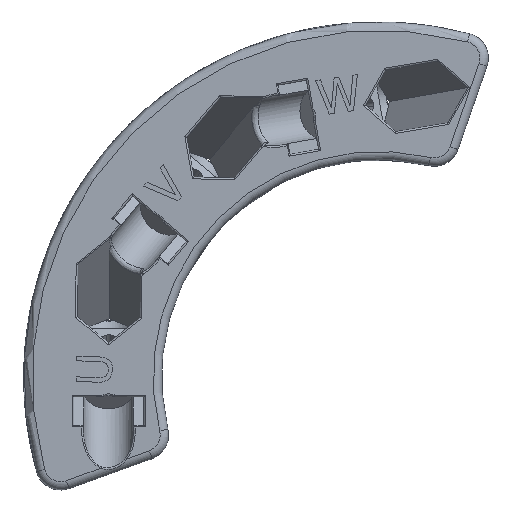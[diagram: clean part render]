
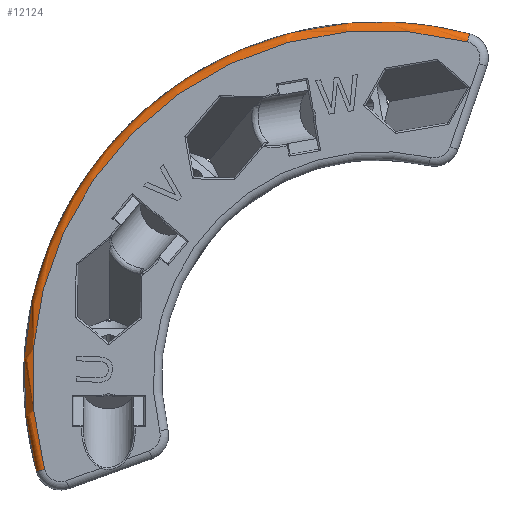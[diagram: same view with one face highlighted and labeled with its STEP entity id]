
A CAD part, front view. The second image highlights one B-rep face of the part: STEP entity #12124.
In plain terms, the highlighted toroidal (fillet/blend) face has major radius 41.5 mm and minor radius 1 mm.
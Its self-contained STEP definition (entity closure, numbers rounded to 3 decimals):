
#39=TOROIDAL_SURFACE('',#13011,41.5,1.);
#2971=FACE_OUTER_BOUND('',#3654,.T.);
#3654=EDGE_LOOP('',(#9651,#9652,#9653,#9654,#9655,#9656,#9657,#9658));
#4717=CIRCLE('',#12582,42.5);
#4719=CIRCLE('',#12584,42.5);
#4870=CIRCLE('',#12898,41.5);
#4890=CIRCLE('',#13012,1.);
#4891=CIRCLE('',#13013,1.);
#4892=CIRCLE('',#13014,1.);
#4893=CIRCLE('',#13015,1.);
#4894=CIRCLE('',#13016,42.497);
#5075=VERTEX_POINT('',#16412);
#5076=VERTEX_POINT('',#16414);
#5087=VERTEX_POINT('',#16471);
#5088=VERTEX_POINT('',#16473);
#5722=VERTEX_POINT('',#21587);
#5723=VERTEX_POINT('',#21589);
#5832=VERTEX_POINT('',#22824);
#5833=VERTEX_POINT('',#22828);
#6256=EDGE_CURVE('',#5076,#5075,#4717,.T.);
#6268=EDGE_CURVE('',#5088,#5087,#4719,.T.);
#7086=EDGE_CURVE('',#5723,#5722,#4870,.T.);
#7268=EDGE_CURVE('',#5832,#5076,#4890,.T.);
#7269=EDGE_CURVE('',#5075,#5723,#4891,.T.);
#7270=EDGE_CURVE('',#5722,#5088,#4892,.T.);
#7271=EDGE_CURVE('',#5087,#5833,#4893,.T.);
#7272=EDGE_CURVE('',#5833,#5832,#4894,.T.);
#9651=ORIENTED_EDGE('',*,*,#7268,.T.);
#9652=ORIENTED_EDGE('',*,*,#6256,.T.);
#9653=ORIENTED_EDGE('',*,*,#7269,.T.);
#9654=ORIENTED_EDGE('',*,*,#7086,.T.);
#9655=ORIENTED_EDGE('',*,*,#7270,.T.);
#9656=ORIENTED_EDGE('',*,*,#6268,.T.);
#9657=ORIENTED_EDGE('',*,*,#7271,.T.);
#9658=ORIENTED_EDGE('',*,*,#7272,.T.);
#12124=ADVANCED_FACE('',(#2971),#39,.T.);
#12582=AXIS2_PLACEMENT_3D('',#16415,#13402,#13403);
#12584=AXIS2_PLACEMENT_3D('',#16474,#13409,#13410);
#12898=AXIS2_PLACEMENT_3D('',#21590,#14348,#14349);
#13011=AXIS2_PLACEMENT_3D('',#22823,#14649,#14650);
#13012=AXIS2_PLACEMENT_3D('',#22825,#14651,#14652);
#13013=AXIS2_PLACEMENT_3D('',#22826,#14653,#14654);
#13014=AXIS2_PLACEMENT_3D('',#22827,#14655,#14656);
#13015=AXIS2_PLACEMENT_3D('',#22829,#14657,#14658);
#13016=AXIS2_PLACEMENT_3D('',#22830,#14659,#14660);
#13402=DIRECTION('center_axis',(0.,-1.,0.));
#13403=DIRECTION('ref_axis',(-0.711,0.,0.703));
#13409=DIRECTION('center_axis',(0.,-1.,0.));
#13410=DIRECTION('ref_axis',(-0.711,0.,0.703));
#14348=DIRECTION('center_axis',(0.,1.,0.));
#14349=DIRECTION('ref_axis',(-0.711,0.,0.703));
#14649=DIRECTION('center_axis',(0.,1.,0.));
#14650=DIRECTION('ref_axis',(0.,0.,1.));
#14651=DIRECTION('center_axis',(-0.997,0.,-0.078));
#14652=DIRECTION('ref_axis',(-0.078,0.,0.997));
#14653=DIRECTION('center_axis',(-0.266,0.,0.964));
#14654=DIRECTION('ref_axis',(-0.964,0.,-0.266));
#14655=DIRECTION('center_axis',(-0.967,0.,0.256));
#14656=DIRECTION('ref_axis',(0.,-1.,0.));
#14657=DIRECTION('center_axis',(0.998,0.,0.064));
#14658=DIRECTION('ref_axis',(-0.064,0.,0.998));
#14659=DIRECTION('center_axis',(0.,-1.,0.));
#14660=DIRECTION('ref_axis',(0.,0.,1.));
#16412=CARTESIAN_POINT('',(-45.791,-8.447,-11.322));
#16414=CARTESIAN_POINT('',(-8.133,-8.447,42.371));
#16415=CARTESIAN_POINT('Origin',(-4.827,-8.447,0.));
#16471=CARTESIAN_POINT('',(-7.566,-8.447,42.412));
#16473=CARTESIAN_POINT('',(6.056,-8.447,41.083));
#16474=CARTESIAN_POINT('Origin',(-4.827,-8.447,0.));
#21587=CARTESIAN_POINT('',(5.8,-9.447,40.116));
#21589=CARTESIAN_POINT('',(-44.827,-9.447,-11.056));
#21590=CARTESIAN_POINT('Origin',(-4.827,-9.447,0.));
#22823=CARTESIAN_POINT('Origin',(-4.827,-8.447,0.));
#22824=CARTESIAN_POINT('',(-8.133,-8.528,42.368));
#22825=CARTESIAN_POINT('Origin',(-8.055,-8.447,41.374));
#22826=CARTESIAN_POINT('Origin',(-44.827,-8.447,-11.056));
#22827=CARTESIAN_POINT('Origin',(5.8,-8.447,40.116));
#22828=CARTESIAN_POINT('',(-7.566,-8.528,42.408));
#22829=CARTESIAN_POINT('Origin',(-7.501,-8.447,41.414));
#22830=CARTESIAN_POINT('Origin',(-4.827,-8.528,0.));
